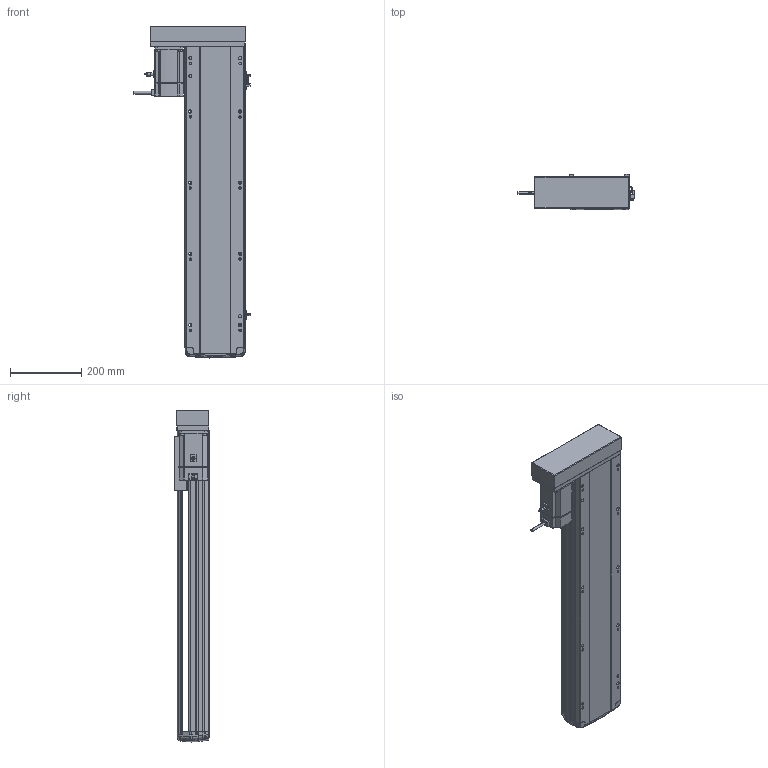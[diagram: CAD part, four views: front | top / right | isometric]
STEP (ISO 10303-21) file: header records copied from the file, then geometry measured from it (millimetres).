
FILE_DESCRIPTION (( 'STEP AP214' ), '1' );
FILE_NAME ('RTH17-XX-650-R-M75-C4.STEP', '2025-10-24T10:16:51', ( '' ), ( '' ), 'SwSTEP 2.0', 'SolidWorks 2018', '' );
FILE_SCHEMA (( 'AUTOMOTIVE_DESIGN' ));
Length unit declared in the file: millimetre
Products named in the file (10): N_RTH17-L-008-P75电机安装板左转折^RTH17-XX-XX-R-M75-C4（方程式）; N_RTH-L-012 感应片(外置)^RTH17-XX-XX-R-M75-C4（方程式）; N_RTH17-M-011底座^RTH17-XX-XX-R-M75-C4（方程式）; RTH17-XX-650-R-M75-C4; N_OMRON EE-SX672 換覜ん^RTH17-XX-XX-R-M75-C4ㄗ源最宒ㄘ; N_RTH17-GY-001P^RTH17-XX-XX-R-M75-C4（方程式）; N_RTH17-M-007上盖^RTH17-XX-XX-R-M75-C4（方程式）; N_M75^RTH17-XX-XX-R-M75-C4（方程式）; N_RTH17-L-018盖子^RTH17-XX-XX-R-M75-C4（方程式）; N_RTH17-E-004丝杆螺母连接座^RTH17-XX-XX-R-M75-C4（方程式）
Assembly tree (11 placements, depth 2):
  RTH17-XX-650-R-M75-C4
    N_RTH17-M-011底座^RTH17-XX-XX-R-M75-C4（方程式）
    N_RTH17-M-007上盖^RTH17-XX-XX-R-M75-C4（方程式）
    N_M75^RTH17-XX-XX-R-M75-C4（方程式）
    N_OMRON EE-SX672 換覜ん^RTH17-XX-XX-R-M75-C4ㄗ源最宒ㄘ  x3
    N_RTH-L-012 感应片(外置)^RTH17-XX-XX-R-M75-C4（方程式）
    N_RTH17-L-008-P75电机安装板左转折^RTH17-XX-XX-R-M75-C4（方程式）
    N_RTH17-L-018盖子^RTH17-XX-XX-R-M75-C4（方程式）
    N_RTH17-E-004丝杆螺母连接座^RTH17-XX-XX-R-M75-C4（方程式）
    N_RTH17-GY-001P^RTH17-XX-XX-R-M75-C4（方程式）
Bounding box: 326.2 x 97 x 932.99 mm (x, y, z)
Volume: 8836730.7 mm3; surface area: 1107120.1 mm2
Topology: 13 solids, 15 shells, 1741 faces, 4781 edges, 3094 vertices
Faces by surface type: plane 831, cylinder 496, bspline 377, cone 28, torus 9
Entity records: 50545 total; most frequent: CARTESIAN_POINT 20241, ORIENTED_EDGE 6586, DIRECTION 5473, EDGE_CURVE 3297, VERTEX_POINT 2130, AXIS2_PLACEMENT_3D 1837, LINE 1799, VECTOR 1799
